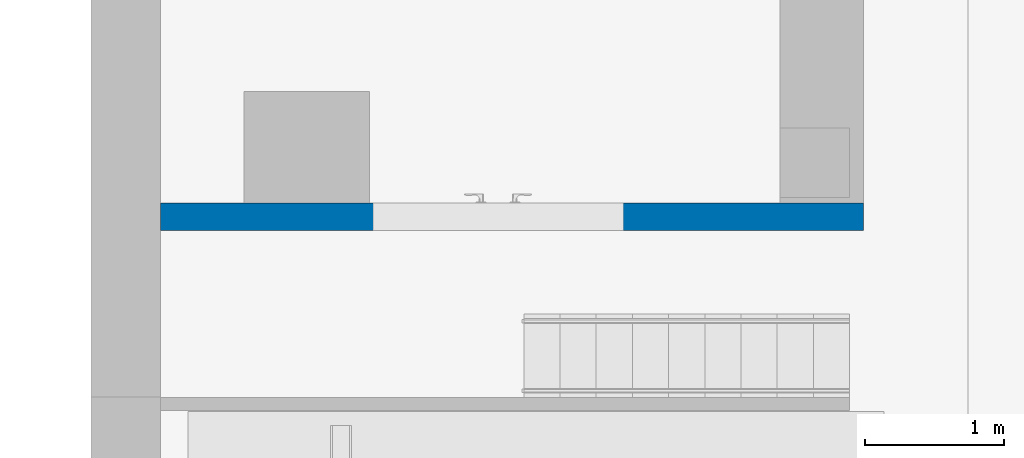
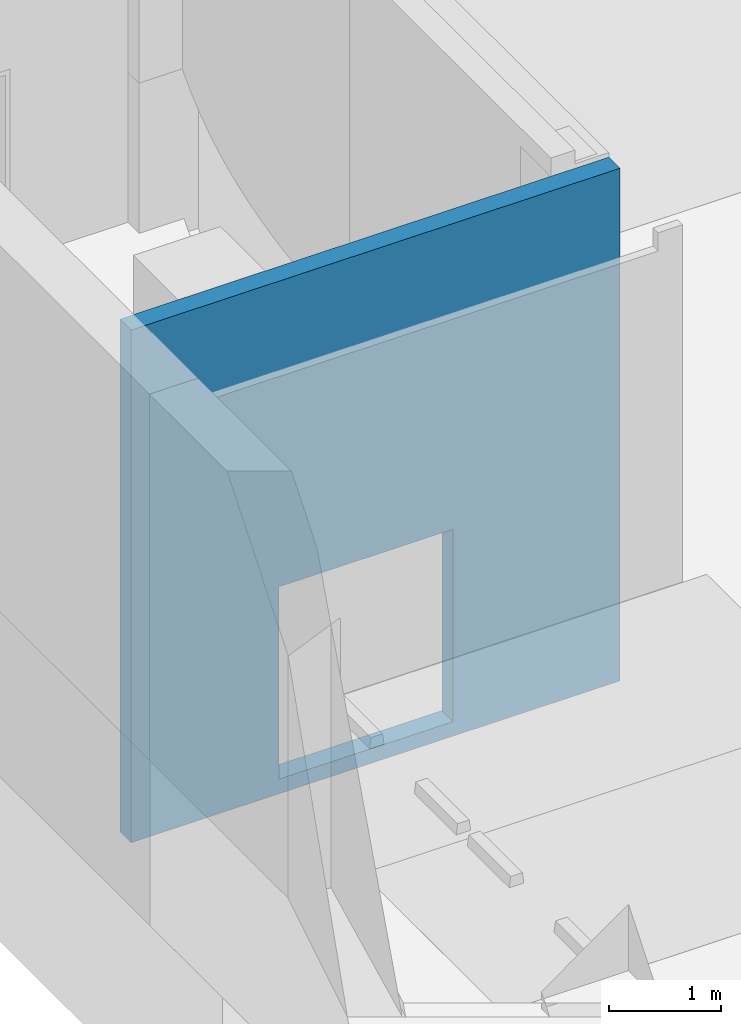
# One storey, part 6 of 30: 1 wall, 2 openings.
"""IFC2X3 building model written with IfcOpenShell, lengths in millimetres."""

from ifc_helpers import new_model, entity, si_unit, converted_unit, derived_unit, direction, frame, frame_2d, origin, place, context, subcontext, project, spatial, polyline, rectangle, extrude, clip, bounded_halfspace, material, layer, layer_set, layer_usage, type_object, element, save


model = new_model("IFC2X3")

# Units and contexts
model_context = context("Model", 3, precision=0.01, world=origin(), true_north=direction((6.123031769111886e-17, 1.0)))
body_context = subcontext(model_context, "Body", "Model", "MODEL_VIEW")
ifc_project = project(units=[si_unit("LENGTHUNIT", "METRE", prefix="MILLI"), si_unit("AREAUNIT", "SQUARE_METRE"), si_unit("VOLUMEUNIT", "CUBIC_METRE"), converted_unit("PLANEANGLEUNIT", "DEGREE", entity("IfcRatioMeasure", 0.017453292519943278), si_unit("PLANEANGLEUNIT", "RADIAN"), dimensions=[0, 0, 0, 0, 0, 0, 0]), si_unit("MASSUNIT", "GRAM", prefix="KILO"), derived_unit("MASSDENSITYUNIT", [(si_unit("MASSUNIT", "GRAM", prefix="KILO"), 1), (si_unit("LENGTHUNIT", "METRE"), -3)]), derived_unit("MOMENTOFINERTIAUNIT", [(si_unit("LENGTHUNIT", "METRE"), 4)]), si_unit("TIMEUNIT", "SECOND"), si_unit("FREQUENCYUNIT", "HERTZ"), si_unit("THERMODYNAMICTEMPERATUREUNIT", "DEGREE_CELSIUS"), derived_unit("THERMALTRANSMITTANCEUNIT", [(si_unit("MASSUNIT", "GRAM", prefix="KILO"), 1), (si_unit("THERMODYNAMICTEMPERATUREUNIT", "KELVIN"), -1), (si_unit("TIMEUNIT", "SECOND"), -3)]), derived_unit("VOLUMETRICFLOWRATEUNIT", [(si_unit("LENGTHUNIT", "METRE"), 3), (si_unit("TIMEUNIT", "SECOND"), -1)]), derived_unit("MASSFLOWRATEUNIT", [(si_unit("MASSUNIT", "GRAM", prefix="KILO"), 1), (si_unit("TIMEUNIT", "SECOND"), -1)]), derived_unit("ROTATIONALFREQUENCYUNIT", [(si_unit("TIMEUNIT", "SECOND"), -1)]), si_unit("ELECTRICCURRENTUNIT", "AMPERE"), si_unit("ELECTRICVOLTAGEUNIT", "VOLT"), si_unit("POWERUNIT", "WATT"), si_unit("FORCEUNIT", "NEWTON", prefix="KILO"), si_unit("ILLUMINANCEUNIT", "LUX"), si_unit("LUMINOUSFLUXUNIT", "LUMEN"), si_unit("LUMINOUSINTENSITYUNIT", "CANDELA"), derived_unit("USERDEFINED", [(si_unit("MASSUNIT", "GRAM", prefix="KILO"), -1), (si_unit("LENGTHUNIT", "METRE"), -2), (si_unit("TIMEUNIT", "SECOND"), 3), (si_unit("LUMINOUSFLUXUNIT", "LUMEN"), 1)]), derived_unit("SOUNDPOWERUNIT", [(si_unit("MASSUNIT", "GRAM", prefix="KILO"), 1), (si_unit("LENGTHUNIT", "METRE"), 2), (si_unit("TIMEUNIT", "SECOND"), -3)]), derived_unit("SOUNDPRESSUREUNIT", [(si_unit("MASSUNIT", "GRAM", prefix="KILO"), 1), (si_unit("LENGTHUNIT", "METRE"), -1), (si_unit("TIMEUNIT", "SECOND"), -2)]), derived_unit("LINEARVELOCITYUNIT", [(si_unit("LENGTHUNIT", "METRE"), 1), (si_unit("TIMEUNIT", "SECOND"), -1)]), si_unit("PRESSUREUNIT", "PASCAL"), derived_unit("USERDEFINED", [(si_unit("LENGTHUNIT", "METRE"), -2), (si_unit("MASSUNIT", "GRAM", prefix="KILO"), 1), (si_unit("TIMEUNIT", "SECOND"), -2)]), derived_unit("LINEARFORCEUNIT", [(si_unit("MASSUNIT", "GRAM", prefix="KILO"), 1), (si_unit("LENGTHUNIT", "METRE"), 1), (si_unit("TIMEUNIT", "SECOND"), -2), (si_unit("LENGTHUNIT", "METRE"), -1)]), derived_unit("PLANARFORCEUNIT", [(si_unit("MASSUNIT", "GRAM", prefix="KILO"), 1), (si_unit("LENGTHUNIT", "METRE"), 1), (si_unit("TIMEUNIT", "SECOND"), -2), (si_unit("LENGTHUNIT", "METRE"), -2)])], contexts=[model_context])

# Site, building, storey
site_placement = place(None, frame((-14167.972527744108, -657.2125860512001, 0.0)))
site = spatial("IfcSite", under=ifc_project, at=site_placement, Name="Default", CompositionType="ELEMENT")
building_placement = place(site_placement, origin())
building = spatial("IfcBuilding", under=site, at=building_placement, Name="Sample Building", CompositionType="ELEMENT")
storey_placement = place(building_placement, frame((0.0, 0.0, -10100.0)))
storey = spatial("IfcBuildingStorey", under=building, at=storey_placement, Name="지하2층", CompositionType="ELEMENT", Elevation=-10100.0)

# Wall, openings
ifc_material = material(Name="KBIMS-콘크리트")
ifc_layer = layer(ifc_material, 200.0)
ifc_layer_set = layer_set([ifc_layer], Name="기본 벽:WA111-철근콘크리트구조 벽 200mm_W1")
ifc_layer_usage = layer_usage(ifc_layer_set, "AXIS2", "POSITIVE", -100.0)
wall_type = type_object("IfcWallType", Name="기본 벽:WA111-철근콘크리트구조 벽 200mm_W1", PredefinedType="STANDARD", material=ifc_layer_set)
wall_placement = place(storey_placement, frame((18517.96708401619, 19457.212307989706, -1800.0), z_axis=(0.0, 0.0, 1.0), x_axis=(-1.0, 0.0, 0.0)))
wall = element("IfcWallStandardCase", 1, at=wall_placement, inside=storey, type_object=wall_type, material=ifc_layer_usage, Name="기본 벽:WA111-철근콘크리트구조 벽 200mm_W1", ObjectType="기본 벽:WA111-철근콘크리트구조 벽 200mm_W1", context=body_context, shape_type="Clipping", body=[
    clip(clip(extrude(rectangle(XDim=5049.9945928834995, YDim=199.99999999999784, at=frame_2d((2524.9972964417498, 2.1671553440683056e-12), x_axis=(-1.0, 0.0))), origin(), (0.0, 0.0, 1.0), 5799.999999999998), bounded_halfspace(frame((5049.994592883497, -100.0, 5600.0), z_axis=(0.0, 0.0, -1.0), x_axis=(0.0, 1.0, 0.0)), True, frame((5049.994592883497, -100.0, 5600.0), z_axis=(0.0, 0.0, -1.0), x_axis=(0.0, 1.0, 0.0)), polyline([(0.0, 0.0), (0.0, -1371592.0622948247), (0.0, -1432562.3845766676), (60960.0, -1432562.3845766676), (60960.0, -1371592.0622948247), (60960.0, -365754.7007570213), (60960.0, -243834.7007570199), (60960.0, 0.0), (0.0, 0.0)]))), bounded_halfspace(frame((349.98676946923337, -100.0, 5600.0), z_axis=(-1.0, 0.0, 0.0), x_axis=(0.0, 0.0, 1.0)), True, frame((349.98676946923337, -100.0, 5600.0), z_axis=(-1.0, 0.0, 0.0), x_axis=(0.0, 0.0, 1.0)), polyline([(0.0, 0.0), (15240.0, 0.0), (60960.0, 0.0), (60960.0, 60960.0), (15240.0, 60960.0), (0.0, 60960.0), (0.0, 0.0)]))),
])
opening_1_placement = place(wall_placement, frame((18517.96708401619, 19457.212307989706, 1800.0), z_axis=(0.0, 0.0, 1.0), x_axis=(-1.0, 0.0, 0.0)))
element("IfcOpeningElement", 2, at=opening_1_placement, cuts=wall, Name="기본 벽:WA111-철근콘크리트구조 벽 200mm_W1", ObjectType="Opening", context=body_context, shape_type="SweptSolid", body=[
    extrude(rectangle(XDim=2099.9999999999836, YDim=1800.0, at=frame_2d((-1.0231815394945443e-12, -1.0800249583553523e-12), x_axis=(1.0, 0.0))), frame((15892.97245452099, 20881.212307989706, -590.0), z_axis=(0.0, -1.0, 0.0), x_axis=(0.0, 0.0, 1.0)), (0.0, 0.0, 1.0), 3048.0),
])
opening_2_placement = place(wall_placement, frame((3524.9946294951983, 100.0, 160.0)))
element("IfcOpeningElement", 3, at=opening_2_placement, cuts=wall, Name="DR121-쌍여닫이문(철재, 방화문):DR121-쌍여닫이문(철재, 방화문) 1800x2100mm:1", ObjectType="Opening", context=body_context, shape_type="SweptSolid", body=[
    extrude(rectangle(XDim=2099.999999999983, YDim=1799.9999999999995, at=frame_2d((1049.999999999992, 899.9999999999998), x_axis=(1.0, 0.0))), frame((0.0, 0.0, 0.0), z_axis=(0.0, -1.0, 0.0), x_axis=(0.0, 0.0, 1.0)), (0.0, 0.0, 1.0), 200.0),
])

save(model, "model.ifc")
